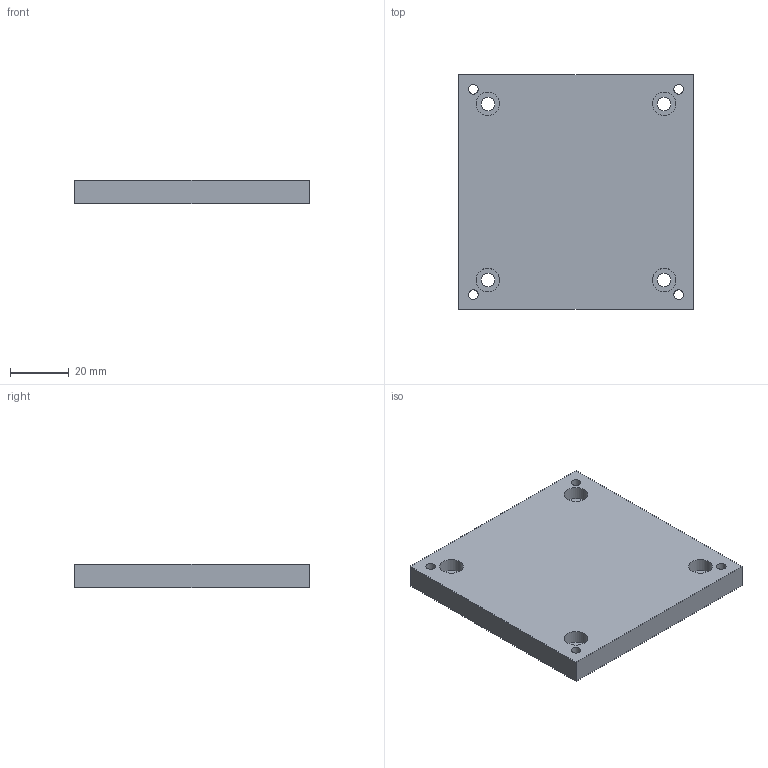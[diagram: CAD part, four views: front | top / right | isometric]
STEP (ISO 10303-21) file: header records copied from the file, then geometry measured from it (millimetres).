
FILE_DESCRIPTION( ( 'STEP AP203' ), '1' );
FILE_NAME( '//Srg14/OST事業部/技術G/Topsolid/PARTS/M-PARTS/A49-80/3D_A49-80/3D_A49-80+090217.step', '2009-02-18T02:51:57', ( ' ' ), ( ' ' ), 'XStep 1.0', ' ', ' ' );
FILE_SCHEMA( ( 'CONFIG_CONTROL_DESIGN' ) );
Length unit declared in the file: millimetre
Products named in the file (1): 1
Bounding box: 80 x 80 x 8 mm (x, y, z)
Volume: 49798.9 mm3; surface area: 16146.4 mm2
Topology: 1 solids, 1 shells, 22 faces, 52 edges, 36 vertices
Faces by surface type: cylinder 12, plane 10
Full cylindrical faces by diameter (mm): 3.3 x4, 4.5 x4, 8 x4
Entity records: 632 total; most frequent: DIRECTION 106, CARTESIAN_POINT 91, ORIENTED_EDGE 72, EDGE_LOOP 54, AXIS2_PLACEMENT_3D 47, EDGE_CURVE 36, FACE_OUTER_BOUND 34, VERTEX_POINT 32
